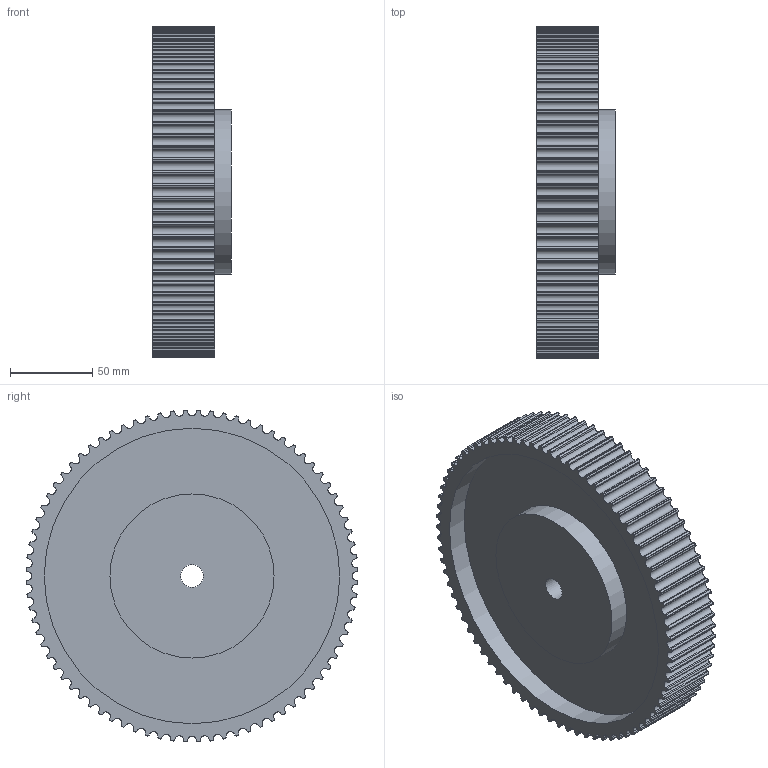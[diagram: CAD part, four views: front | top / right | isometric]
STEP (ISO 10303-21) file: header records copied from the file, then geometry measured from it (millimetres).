
FILE_DESCRIPTION( ( 'STEP AP203' ), '1' );
FILE_NAME( 'C:/Users/Stangenbergd/Documents/CAD_Step/1/17424000.stp', '2020-09-13T17:45:52', ( 'License CC BY-ND 4.0' ), ( 'CADENAS' ), ' ', 'PARTsolutions', ' ' );
FILE_SCHEMA( ( 'CONFIG_CONTROL_DESIGN' ) );
Length unit declared in the file: millimetre
Products named in the file (1): _17424000
Bounding box: 48 x 202.21 x 202.21 mm (x, y, z)
Volume: 797006.1 mm3; surface area: 124569.2 mm2
Topology: 1 solids, 1 shells, 491 faces, 1455 edges, 970 vertices
Faces by surface type: cylinder 325, plane 166
Full cylindrical faces by diameter (mm): 14 x1, 100 x2, 180 x2
Entity records: 16742 total; most frequent: DIRECTION 3084, CARTESIAN_POINT 2912, ORIENTED_EDGE 2900, EDGE_CURVE 1450, AXIS2_PLACEMENT_3D 1142, VERTEX_POINT 970, LINE 800, VECTOR 800
